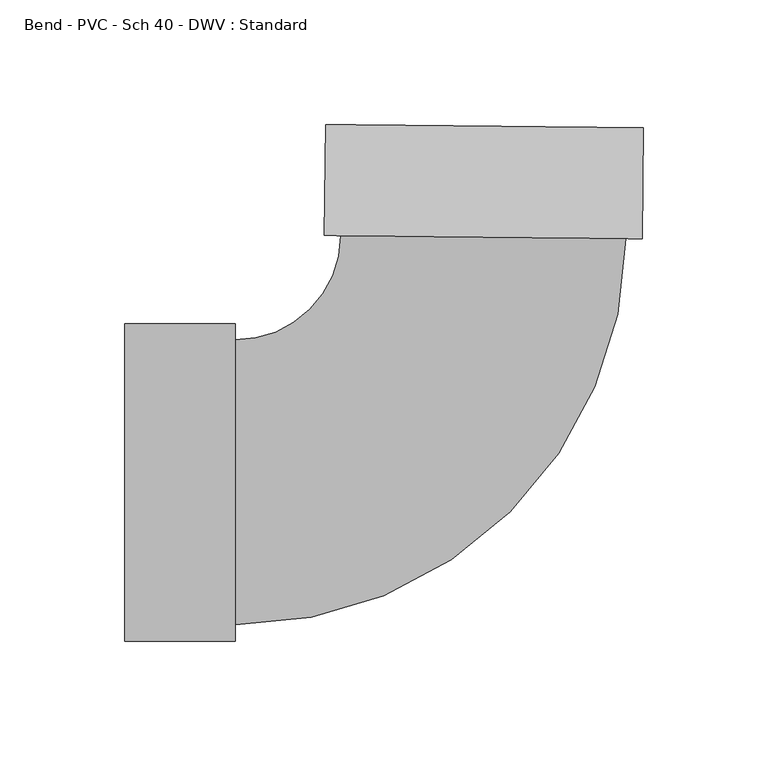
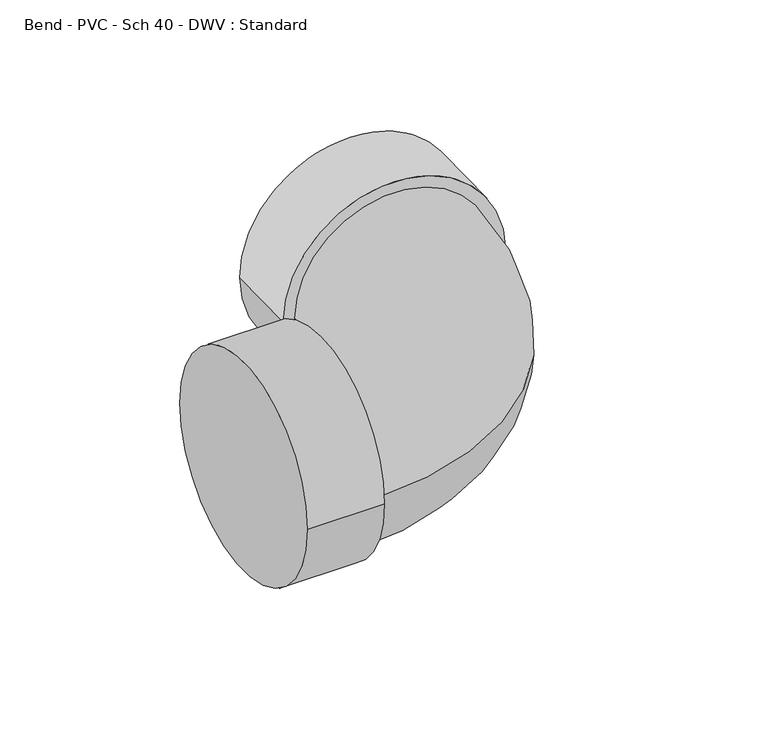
"""IFC4 building model written with IfcOpenShell, lengths in millimetres: pipe fitting geometry, Bend - PVC - Sch 40 - DWV : Standard."""

import ifcopenshell
import ifcopenshell.guid

model = None  # the IFC model being written
_history = None  # IfcOwnerHistory: only IFC2X3 demands one
_inside = {}  # id of a spatial element -> (the spatial element, [elements in it])
_under = {}  # id of a project, library or spatial element -> (it, [spatial elements below it])
_declared = {}  # id of a project -> (the project, [libraries it declares])
_typed = {}  # id of a type object -> (the type object, [elements of that type])
_made_of = {}  # id of a material, layer set ... -> (it, [elements and type objects made of it])


def new_model(schema):
    """Start an empty IFC model of exactly this schema.

    Asked for "IFC4X3", IfcOpenShell would pick the latest addendum, in which some entities
    have other attributes; the version numbers below select the first issue.
    IFC2X3 requires an IfcOwnerHistory on every rooted entity: one is made here for all.
    """
    global model, _history
    if schema == "IFC4X3":
        model = ifcopenshell.file(schema_version=(4, 3, 0, 0))
    else:
        model = ifcopenshell.file(schema=schema)
    _inside.clear()
    _under.clear()
    _declared.clear()
    _typed.clear()
    _made_of.clear()
    _history = None
    if model.schema == "IFC2X3":
        org = make("IfcOrganization", Name="unknown")
        user = make(
            "IfcPersonAndOrganization",
            ThePerson=make("IfcPerson", FamilyName="unknown"),
            TheOrganization=org,
        )
        app = make(
            "IfcApplication",
            ApplicationDeveloper=org,
            Version="unknown",
            ApplicationFullName="unknown",
            ApplicationIdentifier="unknown",
        )
        _history = make(
            "IfcOwnerHistory",
            OwningUser=user,
            OwningApplication=app,
            ChangeAction="ADDED",
            CreationDate=0,
        )
    return model


def make(cls, **values):
    """One entity of the class cls with the attributes given. An attribute that is None is left unset."""
    return model.create_entity(
        cls, **{name: value for name, value in values.items() if value is not None}
    )


def rooted(cls, **values):
    """An entity with a GlobalId (a new one), such as an element, a storey or a relation."""
    return make(cls, GlobalId=ifcopenshell.guid.new(), OwnerHistory=_history, **values)


def si_unit(unit_type, name, prefix=None):
    """IfcSIUnit, for example si_unit("LENGTHUNIT", "METRE", prefix="MILLI")."""
    return make("IfcSIUnit", UnitType=unit_type, Prefix=prefix, Name=name)


def assignment(units):
    """IfcUnitAssignment: the units of a project."""
    return None if units is None else make("IfcUnitAssignment", Units=units)


def point(xyz):
    """IfcCartesianPoint."""
    return None if xyz is None else make("IfcCartesianPoint", Coordinates=xyz)


def direction(xyz):
    """IfcDirection."""
    return None if xyz is None else make("IfcDirection", DirectionRatios=xyz)


def frame(location, z_axis=None, x_axis=None):
    """IfcAxis2Placement3D, a coordinate frame: its origin and axes. An axis left out is left unset."""
    return make(
        "IfcAxis2Placement3D",
        Location=point(location),
        Axis=direction(z_axis),
        RefDirection=direction(x_axis),
    )


def origin():
    """The frame at (0, 0, 0) with its axes left unset."""
    return frame((0.0, 0.0, 0.0))


def place(relative_to, where):
    """IfcLocalPlacement: puts the frame where relative to a parent placement (None: the world)."""
    return make(
        "IfcLocalPlacement", PlacementRelTo=relative_to, RelativePlacement=where
    )


def context(
    kind, dimensions, precision=None, world=None, true_north=None, identifier=None
):
    """IfcGeometricRepresentationContext, for example the 3D "Model" context."""
    return make(
        "IfcGeometricRepresentationContext",
        ContextIdentifier=identifier,
        ContextType=kind,
        CoordinateSpaceDimension=dimensions,
        Precision=precision,
        WorldCoordinateSystem=world,
        TrueNorth=true_north,
    )


def project(units=None, contexts=None):
    """IfcProject with its units and contexts."""
    return rooted(
        "IfcProject",
        Name="project",
        RepresentationContexts=contexts,
        UnitsInContext=assignment(units),
    )


def spatial(cls, under=None, at=None, **own):
    """A site, building, storey or space (cls), placed at a placement, below another one or the project."""
    s = rooted(cls, ObjectPlacement=at, **own)
    if under is not None:
        _under.setdefault(under.id(), (under, []))[1].append(s)
    return s


def circle_curve(where, radius):
    """IfcCircle in the frame where."""
    return make("IfcCircle", Position=where, Radius=radius)


def ellipse_curve(where, semi_axis1, semi_axis2):
    """IfcEllipse in the frame where."""
    return make(
        "IfcEllipse", Position=where, SemiAxis1=semi_axis1, SemiAxis2=semi_axis2
    )


def trimmed(basis, trim1, trim2, sense, master):
    """IfcTrimmedCurve: the piece of a basis curve between two trims."""
    return make(
        "IfcTrimmedCurve",
        BasisCurve=basis,
        Trim1=trim1,
        Trim2=trim2,
        SenseAgreement=sense,
        MasterRepresentation=master,
    )


def shape(context_of_items, identifier, shape_type, items):
    """IfcShapeRepresentation: the items that make up one representation, for example the "Body"."""
    return make(
        "IfcShapeRepresentation",
        ContextOfItems=context_of_items,
        RepresentationIdentifier=identifier,
        RepresentationType=shape_type,
        Items=items,
    )


def source(mapping_origin, context_of_items, identifier, shape_type, items):
    """IfcRepresentationMap: a shape defined once, which mapped items show again and again."""
    return make(
        "IfcRepresentationMap",
        MappingOrigin=mapping_origin,
        MappedRepresentation=shape(context_of_items, identifier, shape_type, items),
    )


def transform(
    local_origin,
    x_axis=None,
    y_axis=None,
    z_axis=None,
    scale=None,
    scale2=None,
    scale3=None,
    uniform=True,
):
    """IfcCartesianTransformationOperator3D, or its non-uniform kind. x_axis, y_axis, z_axis: its Axis1, 2, 3."""
    if uniform:
        return make(
            "IfcCartesianTransformationOperator3D",
            Axis1=direction(x_axis),
            Axis2=direction(y_axis),
            LocalOrigin=point(local_origin),
            Scale=scale,
            Axis3=direction(z_axis),
        )
    return make(
        "IfcCartesianTransformationOperator3DnonUniform",
        Axis1=direction(x_axis),
        Axis2=direction(y_axis),
        LocalOrigin=point(local_origin),
        Scale=scale,
        Axis3=direction(z_axis),
        Scale2=scale2,
        Scale3=scale3,
    )


def mapped(mapping_source, mapping_target):
    """IfcMappedItem: shows the shape of a source again, moved by a transform."""
    return make(
        "IfcMappedItem", MappingSource=mapping_source, MappingTarget=mapping_target
    )


def made_of(thing, what):
    """Note that an element or type object is made of a material, layer set ...; save() writes the relation."""
    if what is not None:
        _made_of.setdefault(what.id(), (what, []))[1].append(thing)
    return thing


def element(
    cls,
    number,
    at=None,
    inside=None,
    cuts=None,
    type_object=None,
    material=None,
    context=None,
    identifier="Body",
    shape_type=None,
    held_by="IfcProductDefinitionShape",
    body=None,
    shapes=None,
    **own,
):
    """One element of the class cls, such as IfcWall. Its Tag is "e" and its number.

    at: its placement. inside: the storey or other place that contains it. cuts: it is an
    opening in that element (IfcRelVoidsElement). A single representation is given by context,
    identifier, shape_type and body (its items); several are given by shapes. held_by: the class
    of the entity that holds the representations. save() writes the other relations.
    """
    e = rooted(cls, Tag="e%d" % number, ObjectPlacement=at, **own)
    if body is not None:
        shapes = [shape(context, identifier, shape_type, body)]
    if shapes is not None:
        e.Representation = make(held_by, Representations=shapes)
    if inside is not None:
        _inside.setdefault(inside.id(), (inside, []))[1].append(e)
    if cuts is not None:
        rooted(
            "IfcRelVoidsElement", RelatingBuildingElement=cuts, RelatedOpeningElement=e
        )
    if type_object is not None:
        _typed.setdefault(type_object.id(), (type_object, []))[1].append(e)
    return made_of(e, material)


def aggregate(whole, parts):
    """IfcRelAggregates: a whole, such as a stair, and the parts it consists of."""
    return rooted("IfcRelAggregates", RelatingObject=whole, RelatedObjects=parts)


def save(model, path):
    """Write the relations noted so far, then the file.

    IfcRelAggregates (storeys below a building ...), IfcRelContainedInSpatialStructure (elements
    in a storey), IfcRelDefinesByType, IfcRelAssociatesMaterial and IfcRelDeclares: one each for
    every whole, place, type object, material and project.
    """
    for whole, parts in _under.values():
        aggregate(whole, parts)
    for where, things in _inside.values():
        rooted(
            "IfcRelContainedInSpatialStructure",
            RelatedElements=things,
            RelatingStructure=where,
        )
    for kind, things in _typed.values():
        rooted("IfcRelDefinesByType", RelatedObjects=things, RelatingType=kind)
    for what, things in _made_of.values():
        rooted("IfcRelAssociatesMaterial", RelatedObjects=things, RelatingMaterial=what)
    for by, libraries in _declared.values():
        rooted("IfcRelDeclares", RelatingContext=by, RelatedDefinitions=libraries)
    model.write(path)


def plane_surface(at):
    """IfcPlane: the flat surface through the origin of the frame at, square to its z axis."""
    return make("IfcPlane", Position=at)


def cylinder_surface(at, radius):
    """IfcCylindricalSurface: all points at the distance radius from the z axis of the frame at."""
    return make("IfcCylindricalSurface", Position=at, Radius=radius)


def revolved_surface(curve, axis_point, axis_direction):
    """IfcSurfaceOfRevolution: the curve turned about the line through axis_point along axis_direction."""
    return make(
        "IfcSurfaceOfRevolution",
        SweptCurve=make("IfcArbitraryOpenProfileDef", ProfileType="CURVE", Curve=curve),
        AxisPosition=make("IfcAxis1Placement", Location=point(axis_point), Axis=direction(axis_direction)),
    )


def advanced_brep(points, edges, surfaces, faces):
    """IfcAdvancedBrep: a solid bounded by faces that lie on surfaces and meet in shared edges.

    An edge is (start, end): straight between two places in points (the first is 0);
    or (start, end, curve); or (start, end, curve, False) where it runs against its curve.
    A face is (place in surfaces, loops), or (place, loops, False) where it looks against
    its surface's normal. A loop lists edges by number (the first is 1), with a minus sign
    where the edge is run from its end to its start. The first loop is the outer one.
    """
    corners = [point(p) for p in points]
    vertices = [make("IfcVertexPoint", VertexGeometry=c) for c in corners]
    made = []
    for start, end, *more in edges:
        made.append(
            make(
                "IfcEdgeCurve",
                EdgeStart=vertices[start],
                EdgeEnd=vertices[end],
                EdgeGeometry=more[0] if more else make("IfcPolyline", Points=[corners[start], corners[end]]),
                SameSense=more[1] if len(more) > 1 else True,
            )
        )
    hull = []
    for where, loops, *sense in faces:
        bounds = []
        for j, loop in enumerate(loops):
            ring = [make("IfcOrientedEdge", EdgeElement=made[abs(k) - 1], Orientation=k > 0) for k in loop]
            bounds.append(
                make(
                    "IfcFaceOuterBound" if j == 0 else "IfcFaceBound",
                    Bound=make("IfcEdgeLoop", EdgeList=ring),
                    Orientation=True,
                )
            )
        hull.append(make("IfcAdvancedFace", Bounds=bounds, FaceSurface=surfaces[where], SameSense=sense[0] if sense else True))
    return make("IfcAdvancedBrep", Outer=make("IfcClosedShell", CfsFaces=hull))


def bend_pvc_sch_40_dwv_standard_f85602c0(model_context):
    return source(origin(), model_context, "Body", "AdvancedBrep", [
        advanced_brep(
        [(-142.875, -63.754, 0.0), (-142.875, 63.754, 0.0), (-98.425, -63.754, 0.0), (-98.425, 63.754, 0.0), (-98.425, -57.15, 0.0), (-98.425, 57.15, 0.0), (-56.1216949, 99.0149407, 0.0), (58.1721045, 97.8243803, 0.0), (64.7757462, 97.7555924, 0.0), (-62.7253366, 99.0837287, 0.0), (65.2387419, 142.203181, 0.0), (-62.2623409, 143.5313173, 0.0)],
        [
            (0, 1, circle_curve(frame((-142.875, 0.0, 0.0), z_axis=(-1.0, 0.0, 0.0), x_axis=(0.0, 1.0, 0.0)), 63.754)),
            (1, 0, circle_curve(frame((-142.875, 0.0, 0.0), z_axis=(-1.0, 0.0, 0.0), x_axis=(0.0, 1.0, 0.0)), 63.754)),
            (2, 3, circle_curve(frame((-98.425, 0.0, 0.0), z_axis=(1.0, 0.0, 0.0), x_axis=(0.0, 1.0, 0.0)), 63.754)),
            (3, 2, circle_curve(frame((-98.425, 0.0, 0.0), z_axis=(1.0, 0.0, 0.0), x_axis=(0.0, 1.0, 0.0)), 63.754)),
            (4, 5, circle_curve(frame((-98.425, 0.0, 0.0), z_axis=(-1.0, 0.0, 0.0), x_axis=(0.0, 1.0, 0.0)), 57.15)),
            (5, 4, circle_curve(frame((-98.425, 0.0, 0.0), z_axis=(-1.0, 0.0, 0.0), x_axis=(0.0, 1.0, 0.0)), 57.15)),
            (0, 2),
            (3, 1),
            (6, 5, circle_curve(frame((-98.425, 99.4556002, 0.0), z_axis=(0.0, 0.0, -1.0), x_axis=(0.0, -1.0, 0.0)), 42.3056002)),
            (4, 7, circle_curve(frame((-98.425, 99.4556002, 0.0), z_axis=(0.0, 0.0, 1.0), x_axis=(0.0, -1.0, 0.0)), 156.6056002)),
            (7, 6, circle_curve(frame((1.0252048, 98.4196605, 0.0), z_axis=(-0.01041610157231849, -0.9999457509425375, 0.0), x_axis=(-0.9999457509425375, 0.01041610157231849, 0.0)), 57.15)),
            (6, 7, circle_curve(frame((1.0252048, 98.4196605, 0.0), z_axis=(-0.01041610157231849, -0.9999457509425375, 0.0), x_axis=(-0.9999457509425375, 0.01041610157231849, 0.0)), 57.15)),
            (8, 9, circle_curve(frame((1.0252048, 98.4196605, 0.0), z_axis=(-0.010416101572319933, -0.9999457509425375, 0.0), x_axis=(-0.9999457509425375, 0.010416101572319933, 0.0)), 63.754)),
            (9, 8, circle_curve(frame((1.0252048, 98.4196605, 0.0), z_axis=(-0.010416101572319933, -0.9999457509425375, 0.0), x_axis=(-0.9999457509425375, 0.010416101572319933, 0.0)), 63.754)),
            (10, 11, circle_curve(frame((1.4882005, 142.8672492, 0.0), z_axis=(0.010416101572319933, 0.9999457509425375, 0.0), x_axis=(-0.9999457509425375, 0.010416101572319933, 0.0)), 63.754)),
            (11, 10, circle_curve(frame((1.4882005, 142.8672492, 0.0), z_axis=(0.010416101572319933, 0.9999457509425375, 0.0), x_axis=(-0.9999457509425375, 0.010416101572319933, 0.0)), 63.754)),
            (8, 10),
            (11, 9),
        ],
        [
            plane_surface(frame((-142.875, 0.0, 0.0), z_axis=(-1.0, 0.0, 0.0), x_axis=(0.0, 0.0, 1.0))),
            plane_surface(frame((-98.425, 0.0, 0.0), z_axis=(1.0, 0.0, 0.0), x_axis=(0.0, 0.0, 1.0))),
            cylinder_surface(frame((-142.875, 0.0, 0.0), z_axis=(-1.0, 0.0, 0.0), x_axis=(0.0, 1.0, 0.0)), 63.754),
            revolved_surface(trimmed(ellipse_curve(frame((-98.425, 0.0, 0.0), z_axis=(-1.0, 0.0, 0.0), x_axis=(0.0, 1.0, 0.0)), 57.15, 57.15), [point((-98.425, -57.15, 0.0))], [point((-98.425, 57.15, 0.0))], True, "CARTESIAN"), (-98.425, 99.4556002, 0.0), (0.0, 0.0, 1.0)),
            revolved_surface(trimmed(ellipse_curve(frame((-98.425, 0.0, 0.0), z_axis=(-1.0, 0.0, 0.0), x_axis=(0.0, 1.0, 0.0)), 57.15, 57.15), [point((-98.425, 57.15, 0.0))], [point((-98.425, -57.15, 0.0))], True, "CARTESIAN"), (-98.425, 99.4556002, 0.0), (0.0, 0.0, 1.0)),
            plane_surface(frame((1.0252048, 98.4196605, 0.0), z_axis=(-0.010416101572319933, -0.9999457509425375, 0.0), x_axis=(0.0, 0.0, 1.0))),
            plane_surface(frame((1.4882005, 142.8672492, 0.0), z_axis=(0.010416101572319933, 0.9999457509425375, 0.0), x_axis=(0.0, 0.0, 1.0))),
            cylinder_surface(frame((1.0252048, 98.4196605, 0.0), z_axis=(-0.010416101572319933, -0.9999457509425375, 0.0), x_axis=(-0.9999457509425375, 0.010416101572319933, 0.0)), 63.754),
        ],
        [
            (0, [[1, 2]]),
            (1, [[3, 4], [5, 6]]),
            (2, [[-1, 7, -4, 8]]),
            (2, [[-2, -8, -3, -7]]),
            (3, [[9, -5, 10, 11]]),
            (4, [[-9, 12, -10, -6]]),
            (5, [[13, 14], [-11, -12]]),
            (6, [[15, 16]]),
            (7, [[-13, 17, -16, 18]]),
            (7, [[-14, -18, -15, -17]]),
        ],
    ),
    ])


if __name__ == "__main__":
    model = new_model("IFC4")
    model_context = context("Model", 3, world=origin())
    ifc_project = project(units=[si_unit("LENGTHUNIT", "METRE", prefix="MILLI")], contexts=[model_context])
    site = spatial("IfcSite", under=ifc_project)
    building = spatial("IfcBuilding", under=site)
    placement = place(None, origin())
    bend_pvc_sch_40_dwv_standard_shape = bend_pvc_sch_40_dwv_standard_f85602c0(model_context)
    element("IfcPipeFitting", 1, ObjectType="Bend - PVC - Sch 40 - DWV : Standard", at=placement, inside=building, context=model_context, shape_type="MappedRepresentation", body=[
        mapped(bend_pvc_sch_40_dwv_standard_shape, transform((0.0, 0.0, 0.0), x_axis=(1.0, 0.0, 0.0), y_axis=(0.0, 1.0, 0.0), z_axis=(0.0, 0.0, 1.0))),
    ])
    save(model, "model.ifc")
